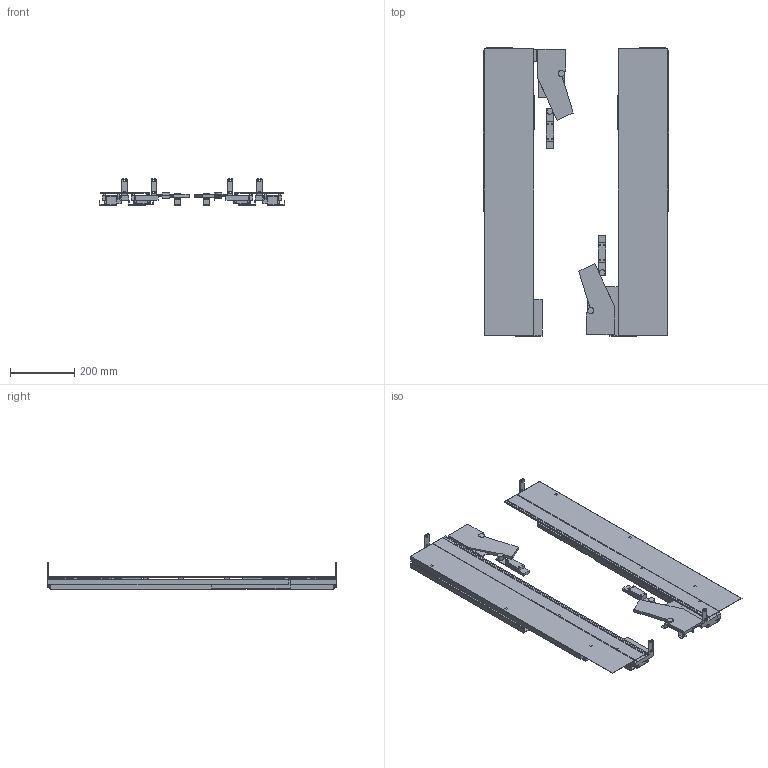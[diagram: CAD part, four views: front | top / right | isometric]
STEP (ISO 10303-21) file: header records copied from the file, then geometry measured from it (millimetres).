
FILE_DESCRIPTION(('STEP AP242'),'1');
FILE_NAME('OPO_53.499.12_volu_schn_3d.stp','2025-11-08T20:32:50',(' '),(' '),'Spatial InterOp 3D',' ',' ');
FILE_SCHEMA(('AP242_MANAGED_MODEL_BASED_3D_ENGINEERING_MIM_LF {1 0 10303 442 1 1 4}'));
Length unit declared in the file: millimetre
Products named in the file (1): 1
Bounding box: 580 x 900 x 82.95 mm (x, y, z)
Volume: 4534810.4 mm3; surface area: 1503718.6 mm2
Topology: 6 solids, 6 shells, 573 faces, 2950 edges, 3687 vertices
Faces by surface type: plane 369, cylinder 172, cone 32
Entity records: 39538 total; most frequent: DIRECTION 4681, CARTESIAN_POINT 4579, ORIENTED_EDGE 3204, LINE 2379, VECTOR 2379, STYLED_ITEM 1921, PRESENTATION_STYLE_ASSIGNMENT 1921, COLOUR_RGB 1921
